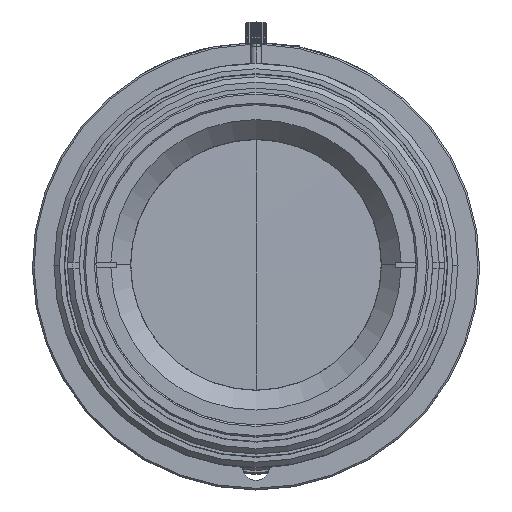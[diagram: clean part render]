
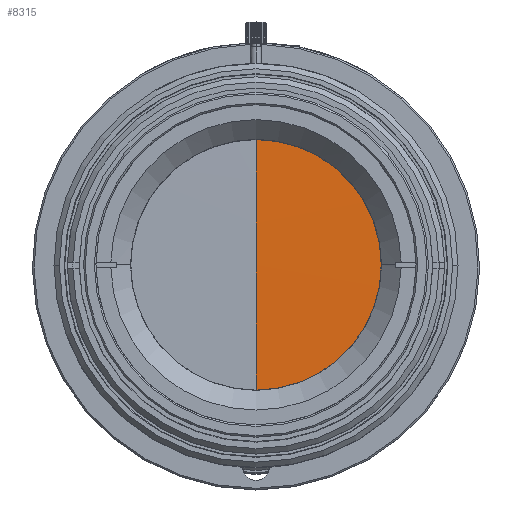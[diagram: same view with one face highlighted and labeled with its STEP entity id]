
A CAD part, top view. The second image highlights one B-rep face of the part: STEP entity #8315.
In plain terms, the highlighted spherical face has radius 4070 mm.
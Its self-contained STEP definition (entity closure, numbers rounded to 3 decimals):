
#1223 = SPHERICAL_SURFACE ( 'NONE', #17898, 4070. ) ;
#2335 = AXIS2_PLACEMENT_3D ( 'NONE', #32293, #29222, #11841 ) ;
#3571 = CARTESIAN_POINT ( 'NONE',  ( 0., -23.289, 74.533 ) ) ;
#4989 = DIRECTION ( 'NONE',  ( -1., 0., 0. ) ) ;
#8315 = ADVANCED_FACE ( 'NONE', ( #27381 ), #1223, .T. ) ;
#9257 = EDGE_CURVE ( 'NONE', #36613, #10719, #35402, .T. ) ;
#10719 = VERTEX_POINT ( 'NONE', #3571 ) ;
#11841 = DIRECTION ( 'NONE',  ( 0., 1., 0. ) ) ;
#12150 = CIRCLE ( 'NONE', #25599, 23.289 ) ;
#12659 = CARTESIAN_POINT ( 'NONE',  ( 0., 0., -3995.4 ) ) ;
#13931 = ORIENTED_EDGE ( 'NONE', *, *, #22505, .F. ) ;
#15433 = ORIENTED_EDGE ( 'NONE', *, *, #20620, .T. ) ;
#15989 = AXIS2_PLACEMENT_3D ( 'NONE', #27972, #25116, #36778 ) ;
#17457 = VERTEX_POINT ( 'NONE', #18439 ) ;
#17638 = CARTESIAN_POINT ( 'NONE',  ( 0., 0., 74.533 ) ) ;
#17898 = AXIS2_PLACEMENT_3D ( 'NONE', #12659, #26821, #33126 ) ;
#18277 = AXIS2_PLACEMENT_3D ( 'NONE', #22182, #21621, #4989 ) ;
#18439 = CARTESIAN_POINT ( 'NONE',  ( 0., 23.289, 74.533 ) ) ;
#18810 = CIRCLE ( 'NONE', #2335, 4070. ) ;
#19600 = ORIENTED_EDGE ( 'NONE', *, *, #32013, .F. ) ;
#19910 = CARTESIAN_POINT ( 'NONE',  ( 23.289, 0., 74.533 ) ) ;
#20378 = EDGE_LOOP ( 'NONE', ( #19600, #15433, #27698, #13931 ) ) ;
#20620 = EDGE_CURVE ( 'NONE', #21441, #10719, #18810, .T. ) ;
#21441 = VERTEX_POINT ( 'NONE', #22423 ) ;
#21621 = DIRECTION ( 'NONE',  ( 0., 0., -1. ) ) ;
#22182 = CARTESIAN_POINT ( 'NONE',  ( 0., 0., 74.533 ) ) ;
#22423 = CARTESIAN_POINT ( 'NONE',  ( 0., 0., 74.6 ) ) ;
#22505 = EDGE_CURVE ( 'NONE', #17457, #36613, #12150, .T. ) ;
#23002 = DIRECTION ( 'NONE',  ( 0., 0., -1. ) ) ;
#25116 = DIRECTION ( 'NONE',  ( -1., 0., 0. ) ) ;
#25599 = AXIS2_PLACEMENT_3D ( 'NONE', #17638, #23002, #29099 ) ;
#26821 = DIRECTION ( 'NONE',  ( 1., 0., 0. ) ) ;
#27381 = FACE_OUTER_BOUND ( 'NONE', #20378, .T. ) ;
#27698 = ORIENTED_EDGE ( 'NONE', *, *, #9257, .F. ) ;
#27972 = CARTESIAN_POINT ( 'NONE',  ( 0., 0., -3995.4 ) ) ;
#29099 = DIRECTION ( 'NONE',  ( -1., 0., 0. ) ) ;
#29222 = DIRECTION ( 'NONE',  ( 1., 0., 0. ) ) ;
#32013 = EDGE_CURVE ( 'NONE', #21441, #17457, #32477, .T. ) ;
#32293 = CARTESIAN_POINT ( 'NONE',  ( 0., 0., -3995.4 ) ) ;
#32477 = CIRCLE ( 'NONE', #15989, 4070. ) ;
#33126 = DIRECTION ( 'NONE',  ( 0., 1., 0. ) ) ;
#35402 = CIRCLE ( 'NONE', #18277, 23.289 ) ;
#36613 = VERTEX_POINT ( 'NONE', #19910 ) ;
#36778 = DIRECTION ( 'NONE',  ( 0., 0., 1. ) ) ;
